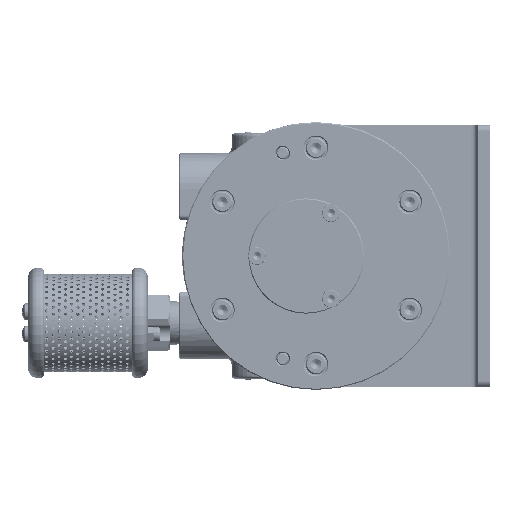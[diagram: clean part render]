
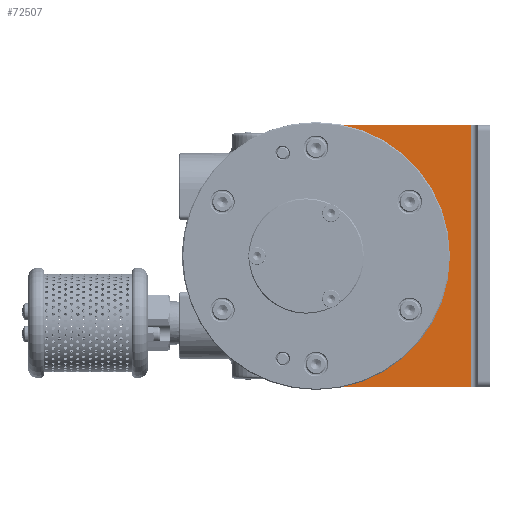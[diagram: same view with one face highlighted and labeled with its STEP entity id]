
A CAD part, left-side view. The second image highlights one B-rep face of the part: STEP entity #72507.
In plain terms, the highlighted planar face has unit normal (-1, 0, 0).
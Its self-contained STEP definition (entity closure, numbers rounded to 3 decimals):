
#2776 = VERTEX_POINT ( 'NONE', #155867 ) ;
#4137 = ORIENTED_EDGE ( 'NONE', *, *, #259239, .T. ) ;
#9531 = CIRCLE ( 'NONE', #115887, 4.3 ) ;
#10225 = EDGE_CURVE ( 'NONE', #69288, #153168, #119611, .T. ) ;
#16524 = DIRECTION ( 'NONE',  ( 1., 0., 0. ) ) ;
#17604 = DIRECTION ( 'NONE',  ( 0., 0., -1. ) ) ;
#18247 = DIRECTION ( 'NONE',  ( 0., 0., -1. ) ) ;
#18445 = EDGE_CURVE ( 'NONE', #2776, #156750, #203552, .T. ) ;
#21874 = VERTEX_POINT ( 'NONE', #54547 ) ;
#21875 = VECTOR ( 'NONE', #135487, 1000. ) ;
#28306 = VERTEX_POINT ( 'NONE', #139491 ) ;
#31459 = CARTESIAN_POINT ( 'NONE',  ( 62.1, -5.738, 36.66 ) ) ;
#33282 = ORIENTED_EDGE ( 'NONE', *, *, #175216, .T. ) ;
#34231 = ORIENTED_EDGE ( 'NONE', *, *, #183507, .F. ) ;
#36898 = DIRECTION ( 'NONE',  ( 0., 0., 1. ) ) ;
#37897 = VECTOR ( 'NONE', #119933, 1000. ) ;
#41764 = CARTESIAN_POINT ( 'NONE',  ( 62.1, -20.65, 43.994 ) ) ;
#41873 = VECTOR ( 'NONE', #172778, 1000. ) ;
#43050 = FACE_OUTER_BOUND ( 'NONE', #145540, .T. ) ;
#49895 = AXIS2_PLACEMENT_3D ( 'NONE', #178731, #16524, #18247 ) ;
#50812 = CARTESIAN_POINT ( 'NONE',  ( 62.1, -91.628, -57.072 ) ) ;
#51724 = CARTESIAN_POINT ( 'NONE',  ( 62.1, -32.549, 0. ) ) ;
#54547 = CARTESIAN_POINT ( 'NONE',  ( 62.1, -36.236, 3.378 ) ) ;
#58109 = VERTEX_POINT ( 'NONE', #116765 ) ;
#58762 = ORIENTED_EDGE ( 'NONE', *, *, #164814, .T. ) ;
#59153 = FACE_BOUND ( 'NONE', #194906, .T. ) ;
#59625 = VECTOR ( 'NONE', #206573, 1000. ) ;
#62572 = CIRCLE ( 'NONE', #131938, 3. ) ;
#62863 = EDGE_LOOP ( 'NONE', ( #192900, #259889 ) ) ;
#63797 = AXIS2_PLACEMENT_3D ( 'NONE', #195759, #113829, #194874 ) ;
#64529 = CARTESIAN_POINT ( 'NONE',  ( 62.1, -20.65, -43.994 ) ) ;
#66035 = CARTESIAN_POINT ( 'NONE',  ( 62.1, -20.65, 48.294 ) ) ;
#68688 = CARTESIAN_POINT ( 'NONE',  ( 62.1, -7.95, -38.687 ) ) ;
#69288 = VERTEX_POINT ( 'NONE', #231340 ) ;
#70491 = LINE ( 'NONE', #151451, #41873 ) ;
#72498 = ORIENTED_EDGE ( 'NONE', *, *, #10225, .F. ) ;
#72507 = ADVANCED_FACE ( 'NONE', ( #59153, #199241, #43050 ), #119875, .F. ) ;
#72684 = CARTESIAN_POINT ( 'NONE',  ( 62.1, -7.95, 38.687 ) ) ;
#73381 = DIRECTION ( 'NONE',  ( 0., 0., 1. ) ) ;
#74078 = EDGE_CURVE ( 'NONE', #139796, #21874, #131103, .T. ) ;
#74615 = ORIENTED_EDGE ( 'NONE', *, *, #182451, .F. ) ;
#76795 = VECTOR ( 'NONE', #235240, 1000. ) ;
#80569 = DIRECTION ( 'NONE',  ( 0., 0., 1. ) ) ;
#81187 = CARTESIAN_POINT ( 'NONE',  ( 62.1, -20.65, -48.294 ) ) ;
#82196 = VERTEX_POINT ( 'NONE', #149823 ) ;
#83120 = EDGE_CURVE ( 'NONE', #93690, #250999, #209491, .T. ) ;
#85690 = DIRECTION ( 'NONE',  ( -1., 0., 0. ) ) ;
#86592 = DIRECTION ( 'NONE',  ( 0., 0., 1. ) ) ;
#93690 = VERTEX_POINT ( 'NONE', #81187 ) ;
#94771 = AXIS2_PLACEMENT_3D ( 'NONE', #41764, #125493, #144271 ) ;
#95771 = DIRECTION ( 'NONE',  ( 0., 0., -1. ) ) ;
#98357 = ORIENTED_EDGE ( 'NONE', *, *, #74078, .T. ) ;
#98931 = AXIS2_PLACEMENT_3D ( 'NONE', #68688, #167706, #229989 ) ;
#100054 = ORIENTED_EDGE ( 'NONE', *, *, #264445, .F. ) ;
#102708 = EDGE_CURVE ( 'NONE', #171950, #58109, #70491, .T. ) ;
#107542 = CIRCLE ( 'NONE', #134094, 5. ) ;
#113829 = DIRECTION ( 'NONE',  ( -1., 0., 0. ) ) ;
#115887 = AXIS2_PLACEMENT_3D ( 'NONE', #118061, #160755, #36898 ) ;
#116765 = CARTESIAN_POINT ( 'NONE',  ( 62.1, -5.738, -36.66 ) ) ;
#118061 = CARTESIAN_POINT ( 'NONE',  ( 62.1, -20.65, -43.994 ) ) ;
#118624 = VERTEX_POINT ( 'NONE', #120266 ) ;
#119028 = ORIENTED_EDGE ( 'NONE', *, *, #18445, .F. ) ;
#119611 = LINE ( 'NONE', #241076, #170498 ) ;
#119875 = PLANE ( 'NONE',  #49895 ) ;
#119933 = DIRECTION ( 'NONE',  ( 0., 1., 0. ) ) ;
#120266 = CARTESIAN_POINT ( 'NONE',  ( 62.1, -20.65, 39.694 ) ) ;
#125493 = DIRECTION ( 'NONE',  ( -1., 0., 0. ) ) ;
#127638 = AXIS2_PLACEMENT_3D ( 'NONE', #247068, #85690, #86592 ) ;
#130566 = CARTESIAN_POINT ( 'NONE',  ( 62.1, -4.95, -60.65 ) ) ;
#131102 = CARTESIAN_POINT ( 'NONE',  ( 62.1, -75.45, -63.65 ) ) ;
#131103 = LINE ( 'NONE', #50812, #76795 ) ;
#131938 = AXIS2_PLACEMENT_3D ( 'NONE', #261837, #181569, #17604 ) ;
#133074 = LINE ( 'NONE', #189607, #59625 ) ;
#133159 = CARTESIAN_POINT ( 'NONE',  ( 62.1, -36.236, -3.378 ) ) ;
#134094 = AXIS2_PLACEMENT_3D ( 'NONE', #51724, #213001, #172959 ) ;
#135487 = DIRECTION ( 'NONE',  ( 0., 0., 1. ) ) ;
#139491 = CARTESIAN_POINT ( 'NONE',  ( 62.1, -4.95, -38.687 ) ) ;
#139796 = VERTEX_POINT ( 'NONE', #31459 ) ;
#141696 = CIRCLE ( 'NONE', #189679, 3. ) ;
#144271 = DIRECTION ( 'NONE',  ( 0., 0., 1. ) ) ;
#145540 = EDGE_LOOP ( 'NONE', ( #169124, #252642, #72498, #261749, #98357, #148111, #149520, #4137, #100054, #33282, #119028, #58762 ) ) ;
#148111 = ORIENTED_EDGE ( 'NONE', *, *, #222041, .T. ) ;
#149520 = ORIENTED_EDGE ( 'NONE', *, *, #102708, .T. ) ;
#149823 = CARTESIAN_POINT ( 'NONE',  ( 62.1, -7.95, 63.65 ) ) ;
#151044 = DIRECTION ( 'NONE',  ( -1., 0., 0. ) ) ;
#151451 = CARTESIAN_POINT ( 'NONE',  ( 62.1, -28.22, -12.125 ) ) ;
#153168 = VERTEX_POINT ( 'NONE', #183107 ) ;
#154218 = VERTEX_POINT ( 'NONE', #130566 ) ;
#154713 = DIRECTION ( 'NONE',  ( -1., 0., 0. ) ) ;
#155867 = CARTESIAN_POINT ( 'NONE',  ( 62.1, -75.45, -63.65 ) ) ;
#156750 = VERTEX_POINT ( 'NONE', #256675 ) ;
#160755 = DIRECTION ( 'NONE',  ( -1., 0., 0. ) ) ;
#163496 = VERTEX_POINT ( 'NONE', #66035 ) ;
#164814 = EDGE_CURVE ( 'NONE', #2776, #168152, #257959, .T. ) ;
#167706 = DIRECTION ( 'NONE',  ( -1., 0., 0. ) ) ;
#168152 = VERTEX_POINT ( 'NONE', #233739 ) ;
#169124 = ORIENTED_EDGE ( 'NONE', *, *, #259794, .T. ) ;
#170498 = VECTOR ( 'NONE', #80569, 1000. ) ;
#171950 = VERTEX_POINT ( 'NONE', #133159 ) ;
#172617 = CARTESIAN_POINT ( 'NONE',  ( 62.1, -84.45, 63.65 ) ) ;
#172778 = DIRECTION ( 'NONE',  ( 0., 0.676, -0.737 ) ) ;
#172959 = DIRECTION ( 'NONE',  ( 0., 0., -1. ) ) ;
#173483 = DIRECTION ( 'NONE',  ( 0., 1., 0. ) ) ;
#175216 = EDGE_CURVE ( 'NONE', #154218, #156750, #62572, .T. ) ;
#178731 = CARTESIAN_POINT ( 'NONE',  ( 62.1, -84.45, -63.65 ) ) ;
#181569 = DIRECTION ( 'NONE',  ( -1., 0., 0. ) ) ;
#182451 = EDGE_CURVE ( 'NONE', #118624, #163496, #209497, .T. ) ;
#183107 = CARTESIAN_POINT ( 'NONE',  ( 62.1, -4.95, 60.65 ) ) ;
#183507 = EDGE_CURVE ( 'NONE', #163496, #118624, #252883, .T. ) ;
#189607 = CARTESIAN_POINT ( 'NONE',  ( 62.1, -4.95, -95.837 ) ) ;
#189679 = AXIS2_PLACEMENT_3D ( 'NONE', #72684, #154713, #95771 ) ;
#192255 = CARTESIAN_POINT ( 'NONE',  ( 62.1, -20.65, -39.694 ) ) ;
#192900 = ORIENTED_EDGE ( 'NONE', *, *, #235688, .F. ) ;
#194874 = DIRECTION ( 'NONE',  ( 0., 0., -1. ) ) ;
#194906 = EDGE_LOOP ( 'NONE', ( #34231, #74615 ) ) ;
#195759 = CARTESIAN_POINT ( 'NONE',  ( 62.1, -7.95, 60.65 ) ) ;
#197531 = LINE ( 'NONE', #172617, #213368 ) ;
#199241 = FACE_BOUND ( 'NONE', #62863, .T. ) ;
#203552 = LINE ( 'NONE', #262528, #37897 ) ;
#206573 = DIRECTION ( 'NONE',  ( 0., 0., 1. ) ) ;
#209491 = CIRCLE ( 'NONE', #243342, 4.3 ) ;
#209497 = CIRCLE ( 'NONE', #94771, 4.3 ) ;
#213001 = DIRECTION ( 'NONE',  ( 1., 0., 0. ) ) ;
#213368 = VECTOR ( 'NONE', #173483, 1000. ) ;
#220249 = CIRCLE ( 'NONE', #63797, 3. ) ;
#221041 = EDGE_CURVE ( 'NONE', #82196, #153168, #220249, .T. ) ;
#222041 = EDGE_CURVE ( 'NONE', #21874, #171950, #107542, .T. ) ;
#229989 = DIRECTION ( 'NONE',  ( 0., 0., -1. ) ) ;
#231340 = CARTESIAN_POINT ( 'NONE',  ( 62.1, -4.95, 38.687 ) ) ;
#233739 = CARTESIAN_POINT ( 'NONE',  ( 62.1, -75.45, 63.65 ) ) ;
#235240 = DIRECTION ( 'NONE',  ( 0., -0.676, -0.737 ) ) ;
#235688 = EDGE_CURVE ( 'NONE', #250999, #93690, #9531, .T. ) ;
#241076 = CARTESIAN_POINT ( 'NONE',  ( 62.1, -4.95, -95.837 ) ) ;
#242515 = EDGE_CURVE ( 'NONE', #69288, #139796, #141696, .T. ) ;
#243342 = AXIS2_PLACEMENT_3D ( 'NONE', #64529, #151044, #73381 ) ;
#247068 = CARTESIAN_POINT ( 'NONE',  ( 62.1, -20.65, 43.994 ) ) ;
#250999 = VERTEX_POINT ( 'NONE', #192255 ) ;
#252642 = ORIENTED_EDGE ( 'NONE', *, *, #221041, .T. ) ;
#252883 = CIRCLE ( 'NONE', #127638, 4.3 ) ;
#256675 = CARTESIAN_POINT ( 'NONE',  ( 62.1, -7.95, -63.65 ) ) ;
#257959 = LINE ( 'NONE', #131102, #21875 ) ;
#259239 = EDGE_CURVE ( 'NONE', #58109, #28306, #262040, .T. ) ;
#259794 = EDGE_CURVE ( 'NONE', #168152, #82196, #197531, .T. ) ;
#259889 = ORIENTED_EDGE ( 'NONE', *, *, #83120, .F. ) ;
#261749 = ORIENTED_EDGE ( 'NONE', *, *, #242515, .T. ) ;
#261837 = CARTESIAN_POINT ( 'NONE',  ( 62.1, -7.95, -60.65 ) ) ;
#262040 = CIRCLE ( 'NONE', #98931, 3. ) ;
#262528 = CARTESIAN_POINT ( 'NONE',  ( 62.1, -84.45, -63.65 ) ) ;
#264445 = EDGE_CURVE ( 'NONE', #154218, #28306, #133074, .T. ) ;
